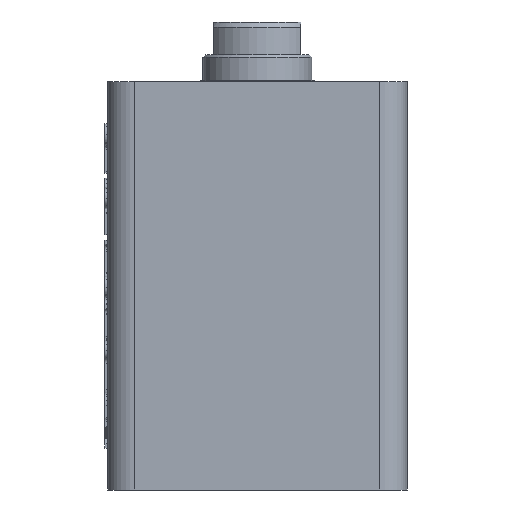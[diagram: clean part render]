
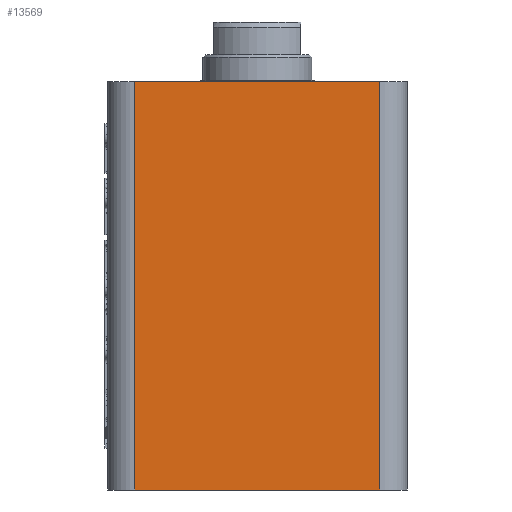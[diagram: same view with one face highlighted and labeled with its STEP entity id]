
A CAD part, front view. The second image highlights one B-rep face of the part: STEP entity #13569.
In plain terms, the highlighted planar face has unit normal (0, -1, 0).
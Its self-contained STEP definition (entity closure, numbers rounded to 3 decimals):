
#1673=PLANE('',#14211);
#2530=LINE('',#39458,#3433);
#2533=LINE('',#39478,#3436);
#2535=LINE('',#39484,#3438);
#2536=LINE('',#39485,#3439);
#3433=VECTOR('',#16156,10.);
#3436=VECTOR('',#16179,10.);
#3438=VECTOR('',#16185,10.);
#3439=VECTOR('',#16186,10.);
#4310=FACE_OUTER_BOUND('',#5127,.T.);
#5127=EDGE_LOOP('',(#12492,#12493,#12494,#12495));
#6642=VERTEX_POINT('',#39447);
#6646=VERTEX_POINT('',#39456);
#6653=VERTEX_POINT('',#39477);
#6655=VERTEX_POINT('',#39483);
#8618=EDGE_CURVE('',#6646,#6642,#2530,.T.);
#8627=EDGE_CURVE('',#6642,#6653,#2533,.T.);
#8630=EDGE_CURVE('',#6655,#6646,#2535,.T.);
#8631=EDGE_CURVE('',#6655,#6653,#2536,.T.);
#12492=ORIENTED_EDGE('',*,*,#8627,.F.);
#12493=ORIENTED_EDGE('',*,*,#8618,.F.);
#12494=ORIENTED_EDGE('',*,*,#8630,.F.);
#12495=ORIENTED_EDGE('',*,*,#8631,.T.);
#13569=ADVANCED_FACE('',(#4310),#1673,.T.);
#14211=AXIS2_PLACEMENT_3D('',#39482,#16183,#16184);
#16156=DIRECTION('',(1.,0.,0.));
#16179=DIRECTION('',(0.,0.,-1.));
#16183=DIRECTION('center_axis',(0.,-1.,0.));
#16184=DIRECTION('ref_axis',(1.,0.,0.));
#16185=DIRECTION('',(0.,0.,1.));
#16186=DIRECTION('',(1.,0.,0.));
#39447=CARTESIAN_POINT('',(50.,0.,75.));
#39456=CARTESIAN_POINT('',(5.,0.,75.));
#39458=CARTESIAN_POINT('',(0.,0.,75.));
#39477=CARTESIAN_POINT('',(50.,0.,0.));
#39478=CARTESIAN_POINT('',(50.,0.,0.));
#39482=CARTESIAN_POINT('Origin',(0.,0.,0.));
#39483=CARTESIAN_POINT('',(5.,0.,0.));
#39484=CARTESIAN_POINT('',(5.,0.,0.));
#39485=CARTESIAN_POINT('',(0.,0.,0.));
